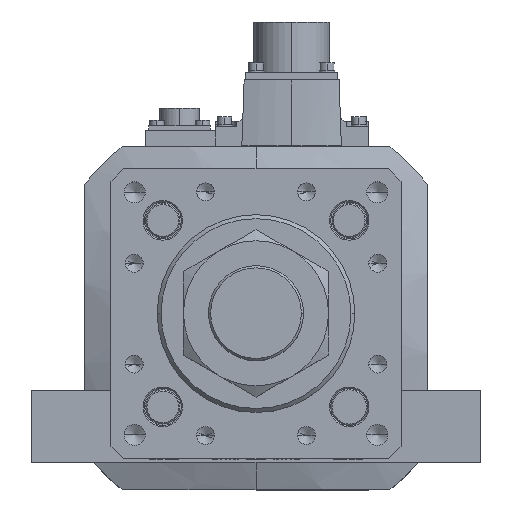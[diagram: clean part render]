
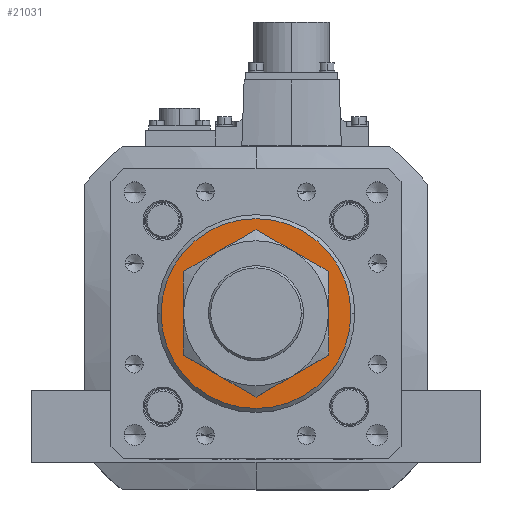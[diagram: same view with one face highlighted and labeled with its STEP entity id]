
A CAD part, top view. The second image highlights one B-rep face of the part: STEP entity #21031.
In plain terms, the highlighted planar face has unit normal (0, 0, 1).
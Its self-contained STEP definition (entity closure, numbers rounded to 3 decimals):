
#722 = CIRCLE ( 'NONE', #25234, 23. ) ;
#1803 = ORIENTED_EDGE ( 'NONE', *, *, #13327, .T. ) ;
#2092 = EDGE_LOOP ( 'NONE', ( #1803, #9002 ) ) ;
#2135 = DIRECTION ( 'NONE',  ( 0., 0., -1. ) ) ;
#2141 = DIRECTION ( 'NONE',  ( 0., 0., 1. ) ) ;
#3314 = DIRECTION ( 'NONE',  ( 1., 0., 0. ) ) ;
#4969 = CARTESIAN_POINT ( 'NONE',  ( 36., 0., 746. ) ) ;
#5413 = CIRCLE ( 'NONE', #33188, 36. ) ;
#5620 = FACE_OUTER_BOUND ( 'NONE', #2092, .T. ) ;
#6560 = FACE_BOUND ( 'NONE', #15115, .T. ) ;
#6794 = VERTEX_POINT ( 'NONE', #34455 ) ;
#8188 = CARTESIAN_POINT ( 'NONE',  ( 0., 0., 746. ) ) ;
#8952 = VERTEX_POINT ( 'NONE', #4969 ) ;
#9002 = ORIENTED_EDGE ( 'NONE', *, *, #29004, .T. ) ;
#9465 = PLANE ( 'NONE',  #24026 ) ;
#9733 = DIRECTION ( 'NONE',  ( 1., 0., 0. ) ) ;
#11490 = DIRECTION ( 'NONE',  ( 1., 0., 0. ) ) ;
#11718 = EDGE_CURVE ( 'NONE', #22175, #18188, #21635, .T. ) ;
#13327 = EDGE_CURVE ( 'NONE', #6794, #8952, #37033, .T. ) ;
#15028 = CARTESIAN_POINT ( 'NONE',  ( 0., 0., 746. ) ) ;
#15115 = EDGE_LOOP ( 'NONE', ( #30628, #31421 ) ) ;
#15501 = CARTESIAN_POINT ( 'NONE',  ( 0., 0., 746. ) ) ;
#15796 = AXIS2_PLACEMENT_3D ( 'NONE', #38187, #2141, #11490 ) ;
#18188 = VERTEX_POINT ( 'NONE', #20369 ) ;
#20369 = CARTESIAN_POINT ( 'NONE',  ( 23., 0., 746. ) ) ;
#21031 = ADVANCED_FACE ( 'NONE', ( #6560, #5620 ), #9465, .T. ) ;
#21635 = CIRCLE ( 'NONE', #33864, 23. ) ;
#22175 = VERTEX_POINT ( 'NONE', #26776 ) ;
#24026 = AXIS2_PLACEMENT_3D ( 'NONE', #15501, #24559, #9733 ) ;
#24559 = DIRECTION ( 'NONE',  ( 0., 0., 1. ) ) ;
#24664 = EDGE_CURVE ( 'NONE', #18188, #22175, #722, .T. ) ;
#25234 = AXIS2_PLACEMENT_3D ( 'NONE', #15028, #36276, #3314 ) ;
#26187 = DIRECTION ( 'NONE',  ( 0., 0., 1. ) ) ;
#26776 = CARTESIAN_POINT ( 'NONE',  ( -23., 0., 746. ) ) ;
#29004 = EDGE_CURVE ( 'NONE', #8952, #6794, #5413, .T. ) ;
#29333 = DIRECTION ( 'NONE',  ( 1., 0., 0. ) ) ;
#30628 = ORIENTED_EDGE ( 'NONE', *, *, #24664, .T. ) ;
#31421 = ORIENTED_EDGE ( 'NONE', *, *, #11718, .T. ) ;
#32508 = DIRECTION ( 'NONE',  ( 1., 0., 0. ) ) ;
#33188 = AXIS2_PLACEMENT_3D ( 'NONE', #8188, #26187, #29333 ) ;
#33864 = AXIS2_PLACEMENT_3D ( 'NONE', #38424, #2135, #32508 ) ;
#34455 = CARTESIAN_POINT ( 'NONE',  ( -36., 0., 746. ) ) ;
#36276 = DIRECTION ( 'NONE',  ( 0., 0., -1. ) ) ;
#37033 = CIRCLE ( 'NONE', #15796, 36. ) ;
#38187 = CARTESIAN_POINT ( 'NONE',  ( 0., 0., 746. ) ) ;
#38424 = CARTESIAN_POINT ( 'NONE',  ( 0., 0., 746. ) ) ;
